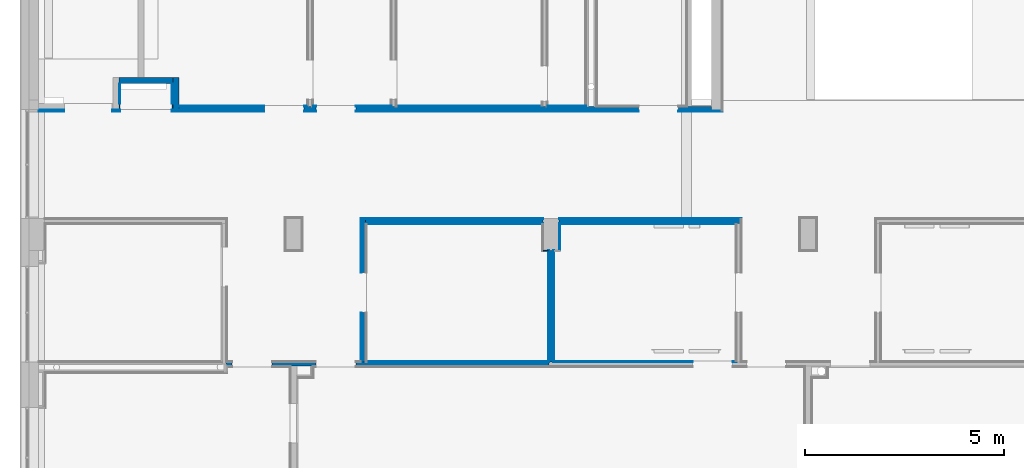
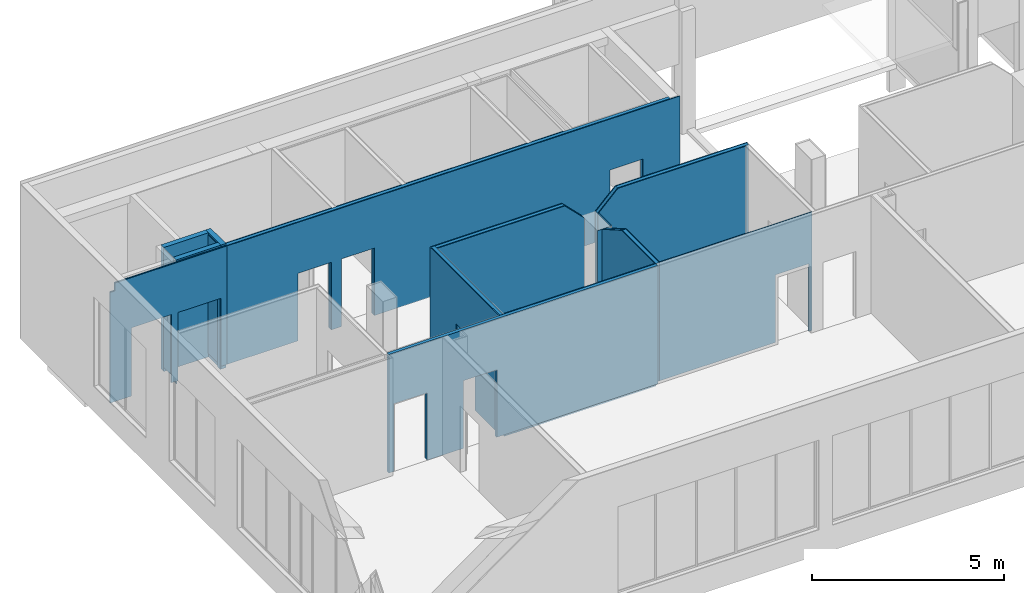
# One storey, part 18 of 29: 29 walls, 18 openings.
"""IFC2X3 building model written with IfcOpenShell, lengths in centimetres."""

from ifc_helpers import new_model, entity, si_unit, converted_unit, derived_unit, direction, frame, frame_2d, origin, origin_2d_with_axis, place, context, subcontext, project, spatial, polyline, rectangle, extrude, clip, bounded_halfspace, material, layer, layer_set, layer_usage, type_object, element, save


model = new_model("IFC2X3")

# Units and contexts
model_context = context("Model", 3, precision=0.001, world=origin(), true_north=direction((6.12303176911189e-17, 1.0)))
body_context = subcontext(model_context, "Body", "Model", "MODEL_VIEW")
ifc_project = project(units=[si_unit("LENGTHUNIT", "METRE", prefix="CENTI"), si_unit("AREAUNIT", "SQUARE_METRE"), si_unit("VOLUMEUNIT", "CUBIC_METRE"), converted_unit("PLANEANGLEUNIT", "DEGREE", entity("IfcRatioMeasure", 0.0174532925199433), si_unit("PLANEANGLEUNIT", "RADIAN"), dimensions=[0, 0, 0, 0, 0, 0, 0]), si_unit("MASSUNIT", "GRAM", prefix="KILO"), derived_unit("MASSDENSITYUNIT", [(si_unit("MASSUNIT", "GRAM", prefix="KILO"), 1), (si_unit("LENGTHUNIT", "METRE"), -3)]), derived_unit("MOMENTOFINERTIAUNIT", [(si_unit("LENGTHUNIT", "METRE"), 4)]), si_unit("TIMEUNIT", "SECOND"), si_unit("FREQUENCYUNIT", "HERTZ"), si_unit("THERMODYNAMICTEMPERATUREUNIT", "DEGREE_CELSIUS"), derived_unit("THERMALTRANSMITTANCEUNIT", [(si_unit("MASSUNIT", "GRAM", prefix="KILO"), 1), (si_unit("THERMODYNAMICTEMPERATUREUNIT", "KELVIN"), -1), (si_unit("TIMEUNIT", "SECOND"), -3)]), derived_unit("VOLUMETRICFLOWRATEUNIT", [(si_unit("LENGTHUNIT", "METRE"), 3), (si_unit("TIMEUNIT", "SECOND"), -1)]), si_unit("ELECTRICCURRENTUNIT", "AMPERE"), si_unit("ELECTRICVOLTAGEUNIT", "VOLT"), si_unit("POWERUNIT", "WATT"), si_unit("FORCEUNIT", "NEWTON", prefix="KILO"), si_unit("ILLUMINANCEUNIT", "LUX"), si_unit("LUMINOUSFLUXUNIT", "LUMEN"), si_unit("LUMINOUSINTENSITYUNIT", "CANDELA"), derived_unit("USERDEFINED", [(si_unit("MASSUNIT", "GRAM", prefix="KILO"), -1), (si_unit("LENGTHUNIT", "METRE"), -2), (si_unit("TIMEUNIT", "SECOND"), 3), (si_unit("LUMINOUSFLUXUNIT", "LUMEN"), 1)]), derived_unit("LINEARVELOCITYUNIT", [(si_unit("LENGTHUNIT", "METRE"), 1), (si_unit("TIMEUNIT", "SECOND"), -1)]), si_unit("PRESSUREUNIT", "PASCAL"), derived_unit("USERDEFINED", [(si_unit("LENGTHUNIT", "METRE"), -2), (si_unit("MASSUNIT", "GRAM", prefix="KILO"), 1), (si_unit("TIMEUNIT", "SECOND"), -2)]), derived_unit("LINEARFORCEUNIT", [(si_unit("MASSUNIT", "GRAM", prefix="KILO"), 1), (si_unit("LENGTHUNIT", "METRE"), 1), (si_unit("TIMEUNIT", "SECOND"), -2), (si_unit("LENGTHUNIT", "METRE"), -1)]), derived_unit("PLANARFORCEUNIT", [(si_unit("MASSUNIT", "GRAM", prefix="KILO"), 1), (si_unit("LENGTHUNIT", "METRE"), 1), (si_unit("TIMEUNIT", "SECOND"), -2), (si_unit("LENGTHUNIT", "METRE"), -2)])], contexts=[model_context])

# Site, building, storey
site_placement = place(None, origin())
site = spatial("IfcSite", under=ifc_project, at=site_placement, Name="Default", CompositionType="ELEMENT")
building_placement = place(site_placement, origin())
building = spatial("IfcBuilding", under=site, at=building_placement, CompositionType="ELEMENT")
storey_placement = place(building_placement, frame((0.0, 0.0, 545.0)))
storey = spatial("IfcBuildingStorey", under=building, at=storey_placement, Name="Poziom 1K +5,45", CompositionType="ELEMENT", Elevation=544.999999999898)

# Walls
ifc_material_1 = material(Name="Pustak silikatowy")
ifc_layer_1 = layer(ifc_material_1, 15.0)
ifc_layer_set_1 = layer_set([ifc_layer_1], Name="Ściana podstawowa:Ściana murowana bloczki silikatowegr. 15cm")
ifc_layer_usage_1 = layer_usage(ifc_layer_set_1, "AXIS2", "NEGATIVE", 7.5)
wall_type_1 = type_object("IfcWallType", Name="Ściana podstawowa:Ściana murowana bloczki silikatowegr. 15cm", PredefinedType="STANDARD", material=ifc_layer_set_1)
wall_1_placement = place(storey_placement, frame((-2565.26510446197, 1823.12745160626, 0.0), z_axis=(0.0, 0.0, 1.0), x_axis=(0.0, -1.0, 0.0)))
element("IfcWallStandardCase", 1, at=wall_1_placement, inside=storey, type_object=wall_type_1, material=ifc_layer_usage_1, Name="Ściana podstawowa:Ściana murowana bloczki silikatowegr. 15cm", ObjectType="Ściana podstawowa:Ściana murowana bloczki silikatowegr. 15cm", context=body_context, shape_type="SweptSolid", body=[
    extrude(rectangle(XDim=80.0000000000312, YDim=15.0000000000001, at=frame_2d((40.0000000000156, 6.70574706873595e-14), x_axis=(-1.0, 0.0))), origin(), (0.0, 0.0, 1.0), 395.000000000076),
])
ifc_layer_usage_2 = layer_usage(ifc_layer_set_1, "AXIS2", "NEGATIVE", 7.5)
wall_2_placement = place(storey_placement, frame((-2707.76510446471, 1815.62745160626, 0.0)))
element("IfcWallStandardCase", 2, at=wall_2_placement, inside=storey, type_object=wall_type_1, material=ifc_layer_usage_2, Name="Ściana podstawowa:Ściana murowana bloczki silikatowegr. 15cm", ObjectType="Ściana podstawowa:Ściana murowana bloczki silikatowegr. 15cm", context=body_context, shape_type="SweptSolid", body=[
    extrude(rectangle(XDim=135.000000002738, YDim=15.0000000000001, at=frame_2d((67.500000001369, 1.24344978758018e-14), x_axis=(-1.0, 0.0))), origin(), (0.0, 0.0, 1.0), 395.000000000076),
])

# Wall, opening
ifc_layer_usage_3 = layer_usage(ifc_layer_set_1, "AXIS2", "NEGATIVE", 7.5)
wall_3_placement = place(storey_placement, frame((-2707.76510446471, 1750.62745160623, 0.0)))
wall_3 = element("IfcWallStandardCase", 3, at=wall_3_placement, inside=storey, type_object=wall_type_1, material=ifc_layer_usage_3, Name="Ściana podstawowa:Ściana murowana bloczki silikatowegr. 15cm", ObjectType="Ściana podstawowa:Ściana murowana bloczki silikatowegr. 15cm", context=body_context, shape_type="SweptSolid", body=[
    extrude(rectangle(XDim=135.000000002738, YDim=15.0000000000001, at=frame_2d((67.500000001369, 4.44089209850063e-16), x_axis=(-1.0, 0.0))), origin(), (0.0, 0.0, 1.0), 395.000000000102),
])
opening_1_placement = place(wall_3_placement, origin())
element("IfcOpeningElement", 4, at=opening_1_placement, cuts=wall_3, Name="Ściana podstawowa:Ściana murowana bloczki silikatowegr. 15cm", ObjectType="Opening", context=body_context, shape_type="SweptSolid", body=[
    extrude(rectangle(XDim=230.0, YDim=130.0, at=frame_2d((-5.6843418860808e-14, 0.0), x_axis=(1.0, 0.0))), frame((67.500027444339, -144.9, 115.0), z_axis=(0.0, 1.0, 0.0), x_axis=(0.0, 0.0, -1.0)), (0.0, 0.0, 1.0), 304.8),
])

# Wall
ifc_material_2 = material(Name="Wełna skalna")
ifc_layer_2 = layer(ifc_material_2, 10.0)
ifc_layer_set_2 = layer_set([ifc_layer_2], Name="Ściana podstawowa:Ściana GK rdzeń gr. 10cm")
ifc_layer_usage_4 = layer_usage(ifc_layer_set_2, "AXIS2", "NEGATIVE", 5.0)
wall_type_2 = type_object("IfcWallType", Name="Ściana podstawowa:Ściana GK rdzeń gr. 10cm", PredefinedType="STANDARD", material=ifc_layer_set_2)
wall_4_placement = place(storey_placement, frame((-1604.26510901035, 1462.62745216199, 13.0)))
element("IfcWallStandardCase", 5, at=wall_4_placement, inside=storey, type_object=wall_type_2, material=ifc_layer_usage_4, Name="Ściana podstawowa:Ściana GK rdzeń gr. 10cm", ObjectType="Ściana podstawowa:Ściana GK rdzeń gr. 10cm", context=body_context, shape_type="Clipping", body=[
    clip(extrude(rectangle(XDim=454.999982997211, YDim=9.99999999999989, at=frame_2d((227.499991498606, 0.0), x_axis=(-1.0, 0.0))), origin(), (0.0, 0.0, 1.0), 377.000000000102), bounded_halfspace(frame((0.0, -5.0, 317.0), z_axis=(0.707106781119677, 0.0, -0.707106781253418), x_axis=(0.0, 1.0, 0.0)), True, frame((0.0, -5.0, 317.0), z_axis=(0.707106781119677, 0.0, -0.707106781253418), x_axis=(0.0, 1.0, 0.0)), polyline([(0.0, 0.0), (10.0, 0.0), (10.0, 84.8528137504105), (0.0, 84.8528137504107), (0.0, 0.0)]))),
])

# Wall, openings
ifc_layer_usage_5 = layer_usage(ifc_layer_set_2, "AXIS2", "NEGATIVE", 5.0)
wall_5_placement = place(storey_placement, frame((-2439.26512601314, 1104.62745216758, 13.0)))
wall_5 = element("IfcWallStandardCase", 6, at=wall_5_placement, inside=storey, type_object=wall_type_2, material=ifc_layer_usage_5, Name="Ściana podstawowa:Ściana GK rdzeń gr. 10cm", ObjectType="Ściana podstawowa:Ściana GK rdzeń gr. 10cm", context=body_context, shape_type="SweptSolid", body=[
    extrude(rectangle(XDim=810.000005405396, YDim=9.99999999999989, at=frame_2d((405.000002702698, -3.33066907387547e-14), x_axis=(-1.0, 0.0))), origin(), (0.0, 0.0, 1.0), 377.000000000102),
])
opening_2_placement = place(wall_5_placement, origin())
element("IfcOpeningElement", 7, at=opening_2_placement, cuts=wall_5, Name="Ściana podstawowa:Ściana GK rdzeń gr. 10cm", ObjectType="Opening", context=body_context, shape_type="SweptSolid", body=[
    extrude(rectangle(XDim=215.0, YDim=99.9999999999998, at=origin_2d_with_axis()), frame((65.0, -147.4, 107.5), z_axis=(0.0, 1.0, 0.0), x_axis=(0.0, 0.0, -1.0)), (0.0, 0.0, 1.0), 304.8),
])
opening_3_placement = place(wall_5_placement, origin())
element("IfcOpeningElement", 8, at=opening_3_placement, cuts=wall_5, Name="Ściana podstawowa:Ściana GK rdzeń gr. 10cm", ObjectType="Opening", context=body_context, shape_type="SweptSolid", body=[
    extrude(rectangle(XDim=215.0, YDim=100.0, at=frame_2d((0.0, 0.0), x_axis=(0.0, 1.0))), frame((275.000010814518, -157.4, 107.5), z_axis=(0.0, 1.0, 0.0), x_axis=(1.0, 0.0, 0.0)), (0.0, 0.0, 1.0), 304.8),
])

# Wall, opening
ifc_layer_usage_6 = layer_usage(ifc_layer_set_2, "AXIS2", "NEGATIVE", 5.0)
wall_6_placement = place(storey_placement, frame((-2094.26511519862, 1109.62745216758, 13.0), z_axis=(0.0, 0.0, 1.0), x_axis=(0.0, 1.0, 0.0)))
wall_6 = element("IfcWallStandardCase", 9, at=wall_6_placement, inside=storey, type_object=wall_type_2, material=ifc_layer_usage_6, Name="Ściana podstawowa:Ściana GK rdzeń gr. 10cm", ObjectType="Ściana podstawowa:Ściana GK rdzeń gr. 10cm", context=body_context, shape_type="SweptSolid", body=[
    extrude(rectangle(XDim=357.999999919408, YDim=10.0000000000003, at=frame_2d((178.999999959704, 3.10862446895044e-15), x_axis=(-1.0, 0.0))), origin(), (0.0, 0.0, 1.0), 377.000000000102),
])
opening_4_placement = place(wall_6_placement, origin())
element("IfcOpeningElement", 10, at=opening_4_placement, cuts=wall_6, Name="Ściana podstawowa:Ściana GK rdzeń gr. 10cm", ObjectType="Opening", context=body_context, shape_type="SweptSolid", body=[
    extrude(rectangle(XDim=215.0, YDim=100.0, at=frame_2d((1.10134124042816e-13, 0.0), x_axis=(0.0, 1.0))), frame((174.499999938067, -157.4, 107.5), z_axis=(0.0, 1.0, 0.0), x_axis=(1.0, 0.0, 0.0)), (0.0, 0.0, 1.0), 304.8),
])

# Wall
ifc_layer_usage_7 = layer_usage(ifc_layer_set_2, "AXIS2", "NEGATIVE", 5.0)
wall_7_placement = place(storey_placement, frame((-2089.26511519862, 1462.62745216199, 13.0)))
element("IfcWallStandardCase", 11, at=wall_7_placement, inside=storey, type_object=wall_type_2, material=ifc_layer_usage_7, Name="Ściana podstawowa:Ściana GK rdzeń gr. 10cm", ObjectType="Ściana podstawowa:Ściana GK rdzeń gr. 10cm", context=body_context, shape_type="Clipping", body=[
    clip(extrude(rectangle(XDim=445.000006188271, YDim=9.99999999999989, at=frame_2d((222.500003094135, 0.0), x_axis=(-1.0, 0.0))), origin(), (0.0, 0.0, 1.0), 377.000000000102), bounded_halfspace(frame((385.000006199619, -5.0, 377.0), z_axis=(-0.707106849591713, 0.0, -0.707106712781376), x_axis=(0.0, -1.0, 0.0)), True, frame((385.000006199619, -5.0, 377.0), z_axis=(-0.707106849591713, 0.0, -0.707106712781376), x_axis=(0.0, -1.0, 0.0)), polyline([(0.0, 0.0), (-10.0, 0.0), (-10.0, -84.8528219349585), (0.0, -84.8528137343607), (0.0, 0.0)]))),
])

# Wall, openings
ifc_layer_usage_8 = layer_usage(ifc_layer_set_2, "AXIS2", "NEGATIVE", 5.0)
wall_8_placement = place(storey_placement, frame((-2557.76510446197, 1745.62745205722, 13.0)))
wall_8 = element("IfcWallStandardCase", 12, at=wall_8_placement, inside=storey, type_object=wall_type_2, material=ifc_layer_usage_8, Name="Ściana podstawowa:Ściana GK rdzeń gr. 10cm", ObjectType="Ściana podstawowa:Ściana GK rdzeń gr. 10cm", context=body_context, shape_type="SweptSolid", body=[
    extrude(rectangle(XDim=1336.0, YDim=9.99999999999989, at=frame_2d((668.0, 0.0), x_axis=(-1.0, 0.0))), origin(), (0.0, 0.0, 1.0), 377.000000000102),
])
opening_5_placement = place(wall_8_placement, origin())
element("IfcOpeningElement", 13, at=opening_5_placement, cuts=wall_8, Name="Ściana podstawowa:Ściana GK rdzeń gr. 10cm", ObjectType="Opening", context=body_context, shape_type="SweptSolid", body=[
    extrude(rectangle(XDim=215.0, YDim=100.0, at=frame_2d((-4.33431068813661e-13, 0.0), x_axis=(0.0, 1.0))), frame((264.0, -157.4, 107.5), z_axis=(0.0, 1.0, 0.0), x_axis=(1.0, 0.0, 0.0)), (0.0, 0.0, 1.0), 304.8),
])
opening_6_placement = place(wall_8_placement, origin())
element("IfcOpeningElement", 14, at=opening_6_placement, cuts=wall_8, Name="Ściana podstawowa:Ściana GK rdzeń gr. 10cm", ObjectType="Opening", context=body_context, shape_type="SweptSolid", body=[
    extrude(rectangle(XDim=215.0, YDim=100.0, at=frame_2d((0.0, 0.0), x_axis=(0.0, 1.0))), frame((394.0, -157.4, 107.5), z_axis=(0.0, 1.0, 0.0), x_axis=(1.0, 0.0, 0.0)), (0.0, 0.0, 1.0), 304.8),
])
opening_7_placement = place(wall_8_placement, origin())
element("IfcOpeningElement", 15, at=opening_7_placement, cuts=wall_8, Name="Ściana podstawowa:Ściana GK rdzeń gr. 10cm", ObjectType="Opening", context=body_context, shape_type="SweptSolid", body=[
    extrude(rectangle(XDim=215.0, YDim=100.0, at=frame_2d((0.0, -1.06581410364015e-13), x_axis=(1.0, 0.0))), frame((1202.4999869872, -147.4, 107.5), z_axis=(0.0, 1.0, 0.0), x_axis=(0.0, 0.0, -1.0)), (0.0, 0.0, 1.0), 304.8),
])

# Wall
ifc_layer_usage_9 = layer_usage(ifc_layer_set_2, "AXIS2", "NEGATIVE", 5.0)
wall_9_placement = place(storey_placement, frame((-1624.26512060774, 1390.12745210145, 13.0), z_axis=(0.0, 0.0, 1.0), x_axis=(0.0, -1.0, 0.0)))
element("IfcWallStandardCase", 16, at=wall_9_placement, inside=storey, type_object=wall_type_2, material=ifc_layer_usage_9, Name="Ściana podstawowa:Ściana GK rdzeń gr. 10cm", ObjectType="Ściana podstawowa:Ściana GK rdzeń gr. 10cm", context=body_context, shape_type="Clipping", body=[
    clip(extrude(rectangle(XDim=280.499999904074, YDim=9.99999999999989, at=frame_2d((140.249999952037, 0.0), x_axis=(-1.0, 0.0))), origin(), (0.0, 0.0, 1.0), 377.000000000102), bounded_halfspace(frame((0.0, -5.0, 317.0), z_axis=(0.496138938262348, 0.0, -0.868243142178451), x_axis=(0.0, 1.0, 0.0)), True, frame((0.0, -5.0, 317.0), z_axis=(0.496138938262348, 0.0, -0.868243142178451), x_axis=(0.0, 1.0, 0.0)), polyline([(0.0, 0.0), (10.0, 0.0), (10.0, 120.933866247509), (0.0, 120.933866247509), (0.0, 0.0)]))),
])

# Wall, openings
ifc_material_3 = material(Name="Tynk gipsowy")
ifc_layer_3 = layer(ifc_material_3, 2.5)
ifc_layer_set_3 = layer_set([ifc_layer_3], Name="Ściana podstawowa:Ściana GK wykonczenie gr. 2,5cm")
ifc_layer_usage_10 = layer_usage(ifc_layer_set_3, "AXIS2", "NEGATIVE", 1.25)
wall_type_3 = type_object("IfcWallType", Name="Ściana podstawowa:Ściana GK wykonczenie gr. 2,5cm", PredefinedType="STANDARD", material=ifc_layer_set_3)
wall_10_placement = place(storey_placement, frame((-2909.26510525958, 1739.37745171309, 13.0)))
wall_10 = element("IfcWallStandardCase", 17, at=wall_10_placement, inside=storey, type_object=wall_type_3, material=ifc_layer_usage_10, Name="Ściana podstawowa:Ściana GK wykonczenie gr. 2,5cm", ObjectType="Ściana podstawowa:Ściana GK wykonczenie gr. 2,5cm", context=body_context, shape_type="Clipping", body=[
    clip(clip(extrude(rectangle(XDim=351.500000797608, YDim=2.49999999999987, at=frame_2d((175.750000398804, 2.53130849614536e-14), x_axis=(-1.0, 0.0))), origin(), (0.0, 0.0, 1.0), 377.000000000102), bounded_halfspace(frame((15.0000015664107, 1.24999999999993, 352.0), z_axis=(-1.0, 0.0, 0.0), x_axis=(0.0, 0.0, -1.0)), False, frame((15.0000015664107, 1.24999999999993, 352.0), z_axis=(-1.0, 0.0, 0.0), x_axis=(0.0, 0.0, -1.0)), polyline([(0.0, 0.0), (0.0, 2.50000000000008), (-25.0, 2.50000000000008), (-25.0, 0.0), (0.0, 0.0)]))), bounded_halfspace(frame((15.0000015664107, -1.25000000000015, 352.0), z_axis=(0.0, 0.0, 1.0), x_axis=(-1.0, 0.0, 0.0)), False, frame((15.0000015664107, -1.25000000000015, 352.0), z_axis=(0.0, 0.0, 1.0), x_axis=(-1.0, 0.0, 0.0)), polyline([(0.0, 0.0), (0.0, -2.50000000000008), (15.0000015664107, -2.5000000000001), (15.0000015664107, 0.0), (0.0, 0.0)]))),
])
opening_8_placement = place(wall_10_placement, origin())
element("IfcOpeningElement", 18, at=opening_8_placement, cuts=wall_10, Name="Ściana podstawowa:Ściana GK wykonczenie gr. 2,5cm", ObjectType="Opening", context=body_context, shape_type="SweptSolid", body=[
    extrude(rectangle(XDim=230.0, YDim=120.0, at=frame_2d((-4.9737991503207e-14, -2.16715534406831e-13), x_axis=(1.0, 0.0))), frame((124.000000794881, -133.650000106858, 102.0), z_axis=(0.0, 1.0, 0.0), x_axis=(0.0, 0.0, -1.0)), (0.0, 0.0, 1.0), 304.8),
])
opening_9_placement = place(wall_10_placement, origin())
element("IfcOpeningElement", 19, at=opening_9_placement, cuts=wall_10, Name="Ściana podstawowa:Ściana GK wykonczenie gr. 2,5cm", ObjectType="Opening", context=body_context, shape_type="SweptSolid", body=[
    extrude(rectangle(XDim=230.0, YDim=130.0, at=frame_2d((-5.6843418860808e-14, 0.0), x_axis=(1.0, 0.0))), frame((269.000028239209, -133.650000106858, 102.0), z_axis=(0.0, 1.0, 0.0), x_axis=(0.0, 0.0, -1.0)), (0.0, 0.0, 1.0), 304.8),
])

# Wall
ifc_layer_usage_11 = layer_usage(ifc_layer_set_3, "AXIS2", "NEGATIVE", 1.25)
wall_11_placement = place(storey_placement, frame((-2706.51510446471, 1758.12745160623, 13.0), z_axis=(0.0, 0.0, 1.0), x_axis=(0.0, 1.0, 0.0)))
element("IfcWallStandardCase", 20, at=wall_11_placement, inside=storey, type_object=wall_type_3, material=ifc_layer_usage_11, Name="Ściana podstawowa:Ściana GK wykonczenie gr. 2,5cm", ObjectType="Ściana podstawowa:Ściana GK wykonczenie gr. 2,5cm", context=body_context, shape_type="SweptSolid", body=[
    extrude(rectangle(XDim=50.0000000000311, YDim=2.5000000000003, at=frame_2d((25.0000000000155, 0.0), x_axis=(-1.0, 0.0))), origin(), (0.0, 0.0, 1.0), 377.000000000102),
])

# Wall, openings
ifc_layer_usage_12 = layer_usage(ifc_layer_set_3, "AXIS2", "NEGATIVE", 1.25)
wall_12_placement = place(storey_placement, frame((-2557.76510446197, 1739.37745171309, 13.0)))
wall_12 = element("IfcWallStandardCase", 21, at=wall_12_placement, inside=storey, type_object=wall_type_3, material=ifc_layer_usage_12, Name="Ściana podstawowa:Ściana GK wykonczenie gr. 2,5cm", ObjectType="Ściana podstawowa:Ściana GK wykonczenie gr. 2,5cm", context=body_context, shape_type="SweptSolid", body=[
    extrude(rectangle(XDim=1363.49998923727, YDim=2.49999999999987, at=frame_2d((681.749994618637, -2.87547763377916e-14), x_axis=(-1.0, 0.0))), origin(), (0.0, 0.0, 1.0), 377.000000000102),
])
opening_10_placement = place(wall_12_placement, origin())
element("IfcOpeningElement", 22, at=opening_10_placement, cuts=wall_12, Name="Ściana podstawowa:Ściana GK wykonczenie gr. 2,5cm", ObjectType="Opening", context=body_context, shape_type="SweptSolid", body=[
    extrude(rectangle(XDim=215.0, YDim=100.0, at=frame_2d((-4.33431068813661e-13, 0.0), x_axis=(0.0, 1.0))), frame((264.0, -151.149999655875, 107.5), z_axis=(0.0, 1.0, 0.0), x_axis=(1.0, 0.0, 0.0)), (0.0, 0.0, 1.0), 304.8),
])
opening_11_placement = place(wall_12_placement, origin())
element("IfcOpeningElement", 23, at=opening_11_placement, cuts=wall_12, Name="Ściana podstawowa:Ściana GK wykonczenie gr. 2,5cm", ObjectType="Opening", context=body_context, shape_type="SweptSolid", body=[
    extrude(rectangle(XDim=215.0, YDim=100.0, at=frame_2d((0.0, 0.0), x_axis=(0.0, 1.0))), frame((394.0, -151.149999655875, 107.5), z_axis=(0.0, 1.0, 0.0), x_axis=(1.0, 0.0, 0.0)), (0.0, 0.0, 1.0), 304.8),
])
opening_12_placement = place(wall_12_placement, origin())
element("IfcOpeningElement", 24, at=opening_12_placement, cuts=wall_12, Name="Ściana podstawowa:Ściana GK wykonczenie gr. 2,5cm", ObjectType="Opening", context=body_context, shape_type="SweptSolid", body=[
    extrude(rectangle(XDim=215.0, YDim=100.0, at=frame_2d((0.0, -1.06581410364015e-13), x_axis=(1.0, 0.0))), frame((1202.4999869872, -141.149999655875, 107.5), z_axis=(0.0, 1.0, 0.0), x_axis=(0.0, 0.0, -1.0)), (0.0, 0.0, 1.0), 304.8),
])

# Wall, opening
ifc_layer_usage_13 = layer_usage(ifc_layer_set_3, "AXIS2", "NEGATIVE", 1.25)
wall_13_placement = place(storey_placement, frame((-2233.76511745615, 1751.87745205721, 13.0), z_axis=(0.0, 0.0, 1.0), x_axis=(-1.0, 0.0, 0.0)))
wall_13 = element("IfcWallStandardCase", 25, at=wall_13_placement, inside=storey, type_object=wall_type_3, material=ifc_layer_usage_13, Name="Ściana podstawowa:Ściana GK wykonczenie gr. 2,5cm", ObjectType="Ściana podstawowa:Ściana GK wykonczenie gr. 2,5cm", context=body_context, shape_type="SweptSolid", body=[
    extrude(rectangle(XDim=323.999987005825, YDim=2.49999999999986, at=frame_2d((161.999993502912, 0.0), x_axis=(-1.0, 0.0))), origin(), (0.0, 0.0, 1.0), 377.000000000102),
])
opening_13_placement = place(wall_13_placement, origin())
element("IfcOpeningElement", 26, at=opening_13_placement, cuts=wall_13, Name="Ściana podstawowa:Ściana GK wykonczenie gr. 2,5cm", ObjectType="Opening", context=body_context, shape_type="SweptSolid", body=[
    extrude(rectangle(XDim=215.0, YDim=99.9999999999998, at=origin_2d_with_axis()), frame((59.9999870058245, -141.15, 107.5), z_axis=(0.0, 1.0, 0.0), x_axis=(0.0, 0.0, -1.0)), (0.0, 0.0, 1.0), 304.8),
])

ifc_layer_usage_14 = layer_usage(ifc_layer_set_3, "AXIS2", "NEGATIVE", 1.25)
wall_14_placement = place(storey_placement, frame((-2023.76511746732, 1751.87745205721, 13.0), z_axis=(0.0, 0.0, 1.0), x_axis=(-1.0, 0.0, 0.0)))
wall_14 = element("IfcWallStandardCase", 27, at=wall_14_placement, inside=storey, type_object=wall_type_3, material=ifc_layer_usage_14, Name="Ściana podstawowa:Ściana GK wykonczenie gr. 2,5cm", ObjectType="Ściana podstawowa:Ściana GK wykonczenie gr. 2,5cm", context=body_context, shape_type="SweptSolid", body=[
    extrude(rectangle(XDim=197.499999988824, YDim=2.49999999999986, at=frame_2d((98.7499999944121, 0.0), x_axis=(-1.0, 0.0))), origin(), (0.0, 0.0, 1.0), 377.000000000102),
])
opening_14_placement = place(wall_14_placement, origin())
element("IfcOpeningElement", 28, at=opening_14_placement, cuts=wall_14, Name="Ściana podstawowa:Ściana GK wykonczenie gr. 2,5cm", ObjectType="Opening", context=body_context, shape_type="SweptSolid", body=[
    extrude(rectangle(XDim=215.0, YDim=99.9999999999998, at=origin_2d_with_axis()), frame((139.999986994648, -141.15, 107.5), z_axis=(0.0, 1.0, 0.0), x_axis=(0.0, 0.0, -1.0)), (0.0, 0.0, 1.0), 304.8),
])

# Walls
ifc_layer_usage_15 = layer_usage(ifc_layer_set_3, "AXIS2", "NEGATIVE", 1.25)
wall_15_placement = place(storey_placement, frame((-1645.7651174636, 1751.87745205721, 13.0), z_axis=(0.0, 0.0, 1.0), x_axis=(-1.0, 0.0, 0.0)))
element("IfcWallStandardCase", 29, at=wall_15_placement, inside=storey, type_object=wall_type_3, material=ifc_layer_usage_15, Name="Ściana podstawowa:Ściana GK wykonczenie gr. 2,5cm", ObjectType="Ściana podstawowa:Ściana GK wykonczenie gr. 2,5cm", context=body_context, shape_type="SweptSolid", body=[
    extrude(rectangle(XDim=365.500000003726, YDim=2.49999999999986, at=frame_2d((182.750000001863, 0.0), x_axis=(-1.0, 0.0))), origin(), (0.0, 0.0, 1.0), 377.000000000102),
])
ifc_layer_usage_16 = layer_usage(ifc_layer_set_3, "AXIS2", "NEGATIVE", 1.25)
wall_16_placement = place(storey_placement, frame((-1536.76511747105, 1751.87745205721, 13.0), z_axis=(0.0, 0.0, 1.0), x_axis=(-1.0, 0.0, 0.0)))
element("IfcWallStandardCase", 30, at=wall_16_placement, inside=storey, type_object=wall_type_3, material=ifc_layer_usage_16, Name="Ściana podstawowa:Ściana GK wykonczenie gr. 2,5cm", ObjectType="Ściana podstawowa:Ściana GK wykonczenie gr. 2,5cm", context=body_context, shape_type="SweptSolid", body=[
    extrude(rectangle(XDim=96.4999999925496, YDim=2.49999999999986, at=frame_2d((48.2499999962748, 0.0), x_axis=(-1.0, 0.0))), origin(), (0.0, 0.0, 1.0), 377.000000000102),
])

# Wall, opening
ifc_layer_usage_17 = layer_usage(ifc_layer_set_3, "AXIS2", "NEGATIVE", 1.25)
wall_17_placement = place(storey_placement, frame((-2100.51511520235, 1109.62745218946, 13.0), z_axis=(0.0, 0.0, 1.0), x_axis=(0.0, 1.0, 0.0)))
wall_17 = element("IfcWallStandardCase", 31, at=wall_17_placement, inside=storey, type_object=wall_type_3, material=ifc_layer_usage_17, Name="Ściana podstawowa:Ściana GK wykonczenie gr. 2,5cm", ObjectType="Ściana podstawowa:Ściana GK wykonczenie gr. 2,5cm", context=body_context, shape_type="SweptSolid", body=[
    extrude(rectangle(XDim=360.499999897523, YDim=2.5000000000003, at=frame_2d((180.249999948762, 1.4432899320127e-15), x_axis=(-1.0, 0.0))), origin(), (0.0, 0.0, 1.0), 377.000000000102),
])
opening_15_placement = place(wall_17_placement, origin())
element("IfcOpeningElement", 32, at=opening_15_placement, cuts=wall_17, Name="Ściana podstawowa:Ściana GK wykonczenie gr. 2,5cm", ObjectType="Opening", context=body_context, shape_type="SweptSolid", body=[
    extrude(rectangle(XDim=215.0, YDim=100.0, at=frame_2d((1.10134124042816e-13, 0.0), x_axis=(0.0, 1.0))), frame((174.499999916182, -163.650000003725, 107.5), z_axis=(0.0, 1.0, 0.0), x_axis=(1.0, 0.0, 0.0)), (0.0, 0.0, 1.0), 304.8),
])

# Walls
ifc_layer_usage_18 = layer_usage(ifc_layer_set_3, "AXIS2", "NEGATIVE", 1.25)
wall_18_placement = place(storey_placement, frame((-2099.26511520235, 1468.87745208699, 13.0)))
element("IfcWallStandardCase", 33, at=wall_18_placement, inside=storey, type_object=wall_type_3, material=ifc_layer_usage_18, Name="Ściana podstawowa:Ściana GK wykonczenie gr. 2,5cm", ObjectType="Ściana podstawowa:Ściana GK wykonczenie gr. 2,5cm", context=body_context, shape_type="Clipping", body=[
    clip(extrude(rectangle(XDim=455.000008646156, YDim=2.49999999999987, at=frame_2d((227.500004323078, -3.37507799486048e-14), x_axis=(-1.0, 0.0))), origin(), (0.0, 0.0, 1.0), 377.000000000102), bounded_halfspace(frame((395.000006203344, -1.25000000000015, 377.0), z_axis=(-0.707106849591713, 0.0, -0.707106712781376), x_axis=(0.0, -1.0, 0.0)), True, frame((395.000006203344, -1.25000000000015, 377.0), z_axis=(-0.707106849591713, 0.0, -0.707106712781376), x_axis=(0.0, -1.0, 0.0)), polyline([(0.0, 0.0), (-2.50000000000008, 0.0), (-2.49999999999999, -84.852825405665), (0.0, -84.8528154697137), (0.0, 0.0)]))),
])
ifc_layer_usage_19 = layer_usage(ifc_layer_set_3, "AXIS2", "NEGATIVE", 1.25)
wall_19_placement = place(storey_placement, frame((-1604.26510901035, 1468.87745208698, 13.0)))
element("IfcWallStandardCase", 34, at=wall_19_placement, inside=storey, type_object=wall_type_3, material=ifc_layer_usage_19, Name="Ściana podstawowa:Ściana GK wykonczenie gr. 2,5cm", ObjectType="Ściana podstawowa:Ściana GK wykonczenie gr. 2,5cm", context=body_context, shape_type="Clipping", body=[
    clip(extrude(rectangle(XDim=457.499982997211, YDim=2.49999999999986, at=frame_2d((228.749991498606, 0.0), x_axis=(-1.0, 0.0))), origin(), (0.0, 0.0, 1.0), 377.000000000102), bounded_halfspace(frame((0.0, -1.25000000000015, 317.0), z_axis=(0.707106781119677, 0.0, -0.707106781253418), x_axis=(0.0, 1.0, 0.0)), True, frame((0.0, -1.25000000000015, 317.0), z_axis=(0.707106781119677, 0.0, -0.707106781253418), x_axis=(0.0, 1.0, 0.0)), polyline([(0.0, 0.0), (2.50000000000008, 0.0), (2.49999999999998, 84.8528137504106), (0.0, 84.8528137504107), (0.0, 0.0)]))),
])
ifc_layer_usage_20 = layer_usage(ifc_layer_set_3, "AXIS2", "NEGATIVE", 1.25)
wall_20_placement = place(storey_placement, frame((-1604.26510901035, 1456.37745216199, 13.0)))
element("IfcWallStandardCase", 35, at=wall_20_placement, inside=storey, type_object=wall_type_3, material=ifc_layer_usage_20, Name="Ściana podstawowa:Ściana GK wykonczenie gr. 2,5cm", ObjectType="Ściana podstawowa:Ściana GK wykonczenie gr. 2,5cm", context=body_context, shape_type="Clipping", body=[
    clip(extrude(rectangle(XDim=444.999982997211, YDim=2.49999999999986, at=frame_2d((222.499991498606, 0.0), x_axis=(-1.0, 0.0))), origin(), (0.0, 0.0, 1.0), 377.000000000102), bounded_halfspace(frame((0.0, -1.25000000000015, 317.0), z_axis=(0.707106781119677, 0.0, -0.707106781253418), x_axis=(0.0, 1.0, 0.0)), True, frame((0.0, -1.25000000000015, 317.0), z_axis=(0.707106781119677, 0.0, -0.707106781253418), x_axis=(0.0, 1.0, 0.0)), polyline([(0.0, 0.0), (2.50000000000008, 0.0), (2.49999999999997, 84.8528137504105), (0.0, 84.8528137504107), (0.0, 0.0)]))),
])

# Wall, opening
ifc_layer_usage_21 = layer_usage(ifc_layer_set_3, "AXIS2", "NEGATIVE", 1.25)
wall_21_placement = place(storey_placement, frame((-1159.26512601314, 1110.87745219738, 13.0), z_axis=(0.0, 0.0, 1.0), x_axis=(-1.0, 0.0, 0.0)))
wall_21 = element("IfcWallStandardCase", 36, at=wall_21_placement, inside=storey, type_object=wall_type_3, material=ifc_layer_usage_21, Name="Ściana podstawowa:Ściana GK wykonczenie gr. 2,5cm", ObjectType="Ściana podstawowa:Ściana GK wykonczenie gr. 2,5cm", context=body_context, shape_type="SweptSolid", body=[
    extrude(rectangle(XDim=459.999994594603, YDim=2.49999999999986, at=frame_2d((229.999997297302, 0.0), x_axis=(-1.0, 0.0))), origin(), (0.0, 0.0, 1.0), 377.000000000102),
])
opening_16_placement = place(wall_21_placement, origin())
element("IfcOpeningElement", 37, at=opening_16_placement, cuts=wall_21, Name="Ściana podstawowa:Ściana GK wykonczenie gr. 2,5cm", ObjectType="Opening", context=body_context, shape_type="SweptSolid", body=[
    extrude(rectangle(XDim=215.0, YDim=99.9999999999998, at=frame_2d((1.10134124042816e-13, 0.0), x_axis=(0.0, 1.0))), frame((60.0, -151.15, 107.5), z_axis=(0.0, 1.0, 0.0), x_axis=(1.0, 0.0, 0.0)), (0.0, 0.0, 1.0), 304.8),
])

# Walls
ifc_layer_usage_22 = layer_usage(ifc_layer_set_3, "AXIS2", "NEGATIVE", 1.25)
wall_22_placement = place(storey_placement, frame((-1618.01512060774, 1112.12745219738, 13.0), z_axis=(0.0, 0.0, 1.0), x_axis=(0.0, 1.0, 0.0)))
element("IfcWallStandardCase", 38, at=wall_22_placement, inside=storey, type_object=wall_type_3, material=ifc_layer_usage_22, Name="Ściana podstawowa:Ściana GK wykonczenie gr. 2,5cm", ObjectType="Ściana podstawowa:Ściana GK wykonczenie gr. 2,5cm", context=body_context, shape_type="Clipping", body=[
    clip(extrude(rectangle(XDim=277.999999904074, YDim=2.49999999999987, at=frame_2d((138.999999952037, -1.88737914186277e-15), x_axis=(-1.0, 0.0))), origin(), (0.0, 0.0, 1.0), 377.000000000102), bounded_halfspace(frame((173.0, -1.25000000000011, 377.0), z_axis=(-0.496138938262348, 0.0, -0.868243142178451), x_axis=(0.0, -1.0, 0.0)), True, frame((173.0, -1.25000000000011, 377.0), z_axis=(-0.496138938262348, 0.0, -0.868243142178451), x_axis=(0.0, -1.0, 0.0)), polyline([(0.0, 0.0), (-2.50000000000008, 0.0), (-2.5000000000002, -120.933866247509), (0.0, -120.933866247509), (0.0, 0.0)]))),
])
ifc_layer_usage_23 = layer_usage(ifc_layer_set_3, "AXIS2", "NEGATIVE", 1.25)
wall_23_placement = place(storey_placement, frame((-1603.01512060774, 1455.12745216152, 13.0), z_axis=(0.0, 0.0, 1.0), x_axis=(0.0, -1.0, 0.0)))
element("IfcWallStandardCase", 39, at=wall_23_placement, inside=storey, type_object=wall_type_3, material=ifc_layer_usage_23, Name="Ściana podstawowa:Ściana GK wykonczenie gr. 2,5cm", ObjectType="Ściana podstawowa:Ściana GK wykonczenie gr. 2,5cm", context=body_context, shape_type="Clipping", body=[
    clip(extrude(rectangle(XDim=65.0000000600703, YDim=2.49999999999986, at=frame_2d((32.5000000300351, 0.0), x_axis=(-1.0, 0.0))), origin(), (0.0, 0.0, 1.0), 319.499988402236), bounded_halfspace(frame((0.0, -1.25000000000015, 316.999988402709), z_axis=(0.0, 0.707106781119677, -0.707106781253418), x_axis=(-1.0, 0.0, 0.0)), True, frame((0.0, -1.25000000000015, 316.999988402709), z_axis=(0.0, 0.707106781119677, -0.707106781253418), x_axis=(-1.0, 0.0, 0.0)), polyline([(0.0, 0.0), (0.0, 3.53553390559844), (-65.0, 3.53553390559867), (-65.0, 0.0), (0.0, 0.0)]))),
])
ifc_layer_usage_24 = layer_usage(ifc_layer_set_3, "AXIS2", "NEGATIVE", 1.25)
wall_24_placement = place(storey_placement, frame((-2086.7651152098, 1110.87745215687, 0.0)))
element("IfcWallStandardCase", 40, at=wall_24_placement, inside=storey, type_object=wall_type_3, material=ifc_layer_usage_24, Name="Ściana podstawowa:Ściana GK wykonczenie gr. 2,5cm", ObjectType="Ściana podstawowa:Ściana GK wykonczenie gr. 2,5cm", context=body_context, shape_type="SweptSolid", body=[
    extrude(rectangle(XDim=454.999994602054, YDim=2.49999999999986, at=frame_2d((227.499997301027, 0.0), x_axis=(-1.0, 0.0))), origin(), (0.0, 0.0, 1.0), 390.000000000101),
])
ifc_layer_usage_25 = layer_usage(ifc_layer_set_3, "AXIS2", "NEGATIVE", 1.25)
wall_25_placement = place(storey_placement, frame((-1630.51512060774, 1109.62745216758, 0.0), z_axis=(0.0, 0.0, 1.0), x_axis=(0.0, 1.0, 0.0)))
element("IfcWallStandardCase", 41, at=wall_25_placement, inside=storey, type_object=wall_type_3, material=ifc_layer_usage_25, Name="Ściana podstawowa:Ściana GK wykonczenie gr. 2,5cm", ObjectType="Ściana podstawowa:Ściana GK wykonczenie gr. 2,5cm", context=body_context, shape_type="Clipping", body=[
    clip(extrude(rectangle(XDim=280.499999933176, YDim=2.49999999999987, at=frame_2d((140.249999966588, 3.99680288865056e-15), x_axis=(-1.0, 0.0))), origin(), (0.0, 0.0, 1.0), 390.000000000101), bounded_halfspace(frame((175.499999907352, -1.25000000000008, 390.0), z_axis=(-0.496138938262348, 0.0, -0.868243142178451), x_axis=(0.0, -1.0, 0.0)), True, frame((175.499999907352, -1.25000000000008, 390.0), z_axis=(-0.496138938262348, 0.0, -0.868243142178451), x_axis=(0.0, -1.0, 0.0)), polyline([(0.0, 0.0), (-2.50000000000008, 0.0), (-2.5000000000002, -120.933866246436), (0.0, -120.933866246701), (0.0, 0.0)]))),
])
ifc_layer_usage_26 = layer_usage(ifc_layer_set_3, "AXIS2", "NEGATIVE", 1.25)
wall_26_placement = place(storey_placement, frame((-1631.76512060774, 1388.87745210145, 0.0), z_axis=(0.0, 0.0, 1.0), x_axis=(-1.0, 0.0, 0.0)))
element("IfcWallStandardCase", 42, at=wall_26_placement, inside=storey, type_object=wall_type_3, material=ifc_layer_usage_26, Name="Ściana podstawowa:Ściana GK wykonczenie gr. 2,5cm", ObjectType="Ściana podstawowa:Ściana GK wykonczenie gr. 2,5cm", context=body_context, shape_type="Clipping", body=[
    clip(extrude(rectangle(XDim=12.5, YDim=2.49999999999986, at=frame_2d((6.24999999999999, 0.0), x_axis=(-1.0, 0.0))), origin(), (0.0, 0.0, 1.0), 331.428571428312), bounded_halfspace(frame((0.0, -1.25000000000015, 330.0), z_axis=(0.0, 0.496138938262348, -0.868243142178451), x_axis=(-1.0, 0.0, 0.0)), True, frame((0.0, -1.25000000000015, 330.0), z_axis=(0.0, 0.496138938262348, -0.868243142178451), x_axis=(-1.0, 0.0, 0.0)), polyline([(0.0, 0.0), (0.0, 2.87937776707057), (-12.5, 2.87937776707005), (-12.5, 0.0), (0.0, 0.0)]))),
])
ifc_layer_usage_27 = layer_usage(ifc_layer_set_3, "AXIS2", "NEGATIVE", 1.25)
wall_27_placement = place(storey_placement, frame((-1644.26512060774, 1456.37745210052, 0.0), z_axis=(0.0, 0.0, 1.0), x_axis=(-1.0, 0.0, 0.0)))
element("IfcWallStandardCase", 43, at=wall_27_placement, inside=storey, type_object=wall_type_3, material=ifc_layer_usage_27, Name="Ściana podstawowa:Ściana GK wykonczenie gr. 2,5cm", ObjectType="Ściana podstawowa:Ściana GK wykonczenie gr. 2,5cm", context=body_context, shape_type="Clipping", body=[
    clip(extrude(rectangle(XDim=444.999994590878, YDim=2.49999999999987, at=frame_2d((222.499997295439, 8.65973959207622e-15), x_axis=(-1.0, 0.0))), origin(), (0.0, 0.0, 1.0), 390.000000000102), bounded_halfspace(frame((0.0, -1.25000000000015, 330.0), z_axis=(0.707106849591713, 0.0, -0.707106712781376), x_axis=(0.0, 1.0, 0.0)), True, frame((0.0, -1.25000000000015, 330.0), z_axis=(0.707106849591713, 0.0, -0.707106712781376), x_axis=(0.0, 1.0, 0.0)), polyline([(0.0, 0.0), (2.50000000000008, 0.0), (2.49999999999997, 84.8528055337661), (0.0, 84.8528055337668), (0.0, 0.0)]))),
])

# Wall, openings
ifc_layer_usage_28 = layer_usage(ifc_layer_set_3, "AXIS2", "NEGATIVE", 1.25)
wall_28_placement = place(storey_placement, frame((-2909.26510525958, 1741.87745160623, 13.0)))
wall_28 = element("IfcWallStandardCase", 44, at=wall_28_placement, inside=storey, type_object=wall_type_3, material=ifc_layer_usage_28, Name="Ściana podstawowa:Ściana GK wykonczenie gr. 2,5cm", ObjectType="Ściana podstawowa:Ściana GK wykonczenie gr. 2,5cm", context=body_context, shape_type="Clipping", body=[
    clip(clip(extrude(rectangle(XDim=351.500000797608, YDim=2.49999999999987, at=frame_2d((175.750000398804, 2.53130849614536e-14), x_axis=(-1.0, 0.0))), origin(), (0.0, 0.0, 1.0), 377.000000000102), bounded_halfspace(frame((15.0000015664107, 1.24999999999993, 352.0), z_axis=(-1.0, 0.0, 0.0), x_axis=(0.0, 0.0, -1.0)), False, frame((15.0000015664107, 1.24999999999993, 352.0), z_axis=(-1.0, 0.0, 0.0), x_axis=(0.0, 0.0, -1.0)), polyline([(0.0, 0.0), (0.0, 2.50000000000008), (-25.0, 2.50000000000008), (-25.0, 0.0), (0.0, 0.0)]))), bounded_halfspace(frame((15.0000015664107, -1.25000000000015, 352.0), z_axis=(0.0, 0.0, 1.0), x_axis=(-1.0, 0.0, 0.0)), False, frame((15.0000015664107, -1.25000000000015, 352.0), z_axis=(0.0, 0.0, 1.0), x_axis=(-1.0, 0.0, 0.0)), polyline([(0.0, 0.0), (0.0, -2.50000000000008), (15.0000015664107, -2.5000000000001), (15.0000015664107, 0.0), (0.0, 0.0)]))),
])
opening_17_placement = place(wall_28_placement, origin())
element("IfcOpeningElement", 45, at=opening_17_placement, cuts=wall_28, Name="Ściana podstawowa:Ściana GK wykonczenie gr. 2,5cm", ObjectType="Opening", context=body_context, shape_type="SweptSolid", body=[
    extrude(rectangle(XDim=230.0, YDim=120.0, at=frame_2d((-4.9737991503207e-14, -2.16715534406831e-13), x_axis=(1.0, 0.0))), frame((124.000000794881, -136.15, 102.0), z_axis=(0.0, 1.0, 0.0), x_axis=(0.0, 0.0, -1.0)), (0.0, 0.0, 1.0), 304.8),
])
opening_18_placement = place(wall_28_placement, origin())
element("IfcOpeningElement", 46, at=opening_18_placement, cuts=wall_28, Name="Ściana podstawowa:Ściana GK wykonczenie gr. 2,5cm", ObjectType="Opening", context=body_context, shape_type="SweptSolid", body=[
    extrude(rectangle(XDim=230.0, YDim=130.0, at=frame_2d((-5.6843418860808e-14, 0.0), x_axis=(1.0, 0.0))), frame((269.000028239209, -136.15, 102.0), z_axis=(0.0, 1.0, 0.0), x_axis=(0.0, 0.0, -1.0)), (0.0, 0.0, 1.0), 304.8),
])

# Wall
ifc_layer_usage_29 = layer_usage(ifc_layer_set_3, "AXIS2", "NEGATIVE", 1.25)
wall_29_placement = place(storey_placement, frame((-2574.01510446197, 1758.12745160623, 13.0), z_axis=(0.0, 0.0, 1.0), x_axis=(0.0, 1.0, 0.0)))
element("IfcWallStandardCase", 47, at=wall_29_placement, inside=storey, type_object=wall_type_3, material=ifc_layer_usage_29, Name="Ściana podstawowa:Ściana GK wykonczenie gr. 2,5cm", ObjectType="Ściana podstawowa:Ściana GK wykonczenie gr. 2,5cm", context=body_context, shape_type="SweptSolid", body=[
    extrude(rectangle(XDim=50.0000000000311, YDim=2.5000000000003, at=frame_2d((25.0000000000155, 0.0), x_axis=(-1.0, 0.0))), origin(), (0.0, 0.0, 1.0), 377.000000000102),
])

save(model, "model.ifc")
